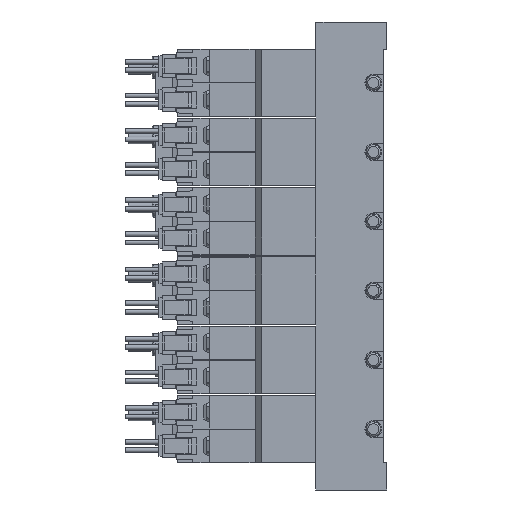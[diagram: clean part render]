
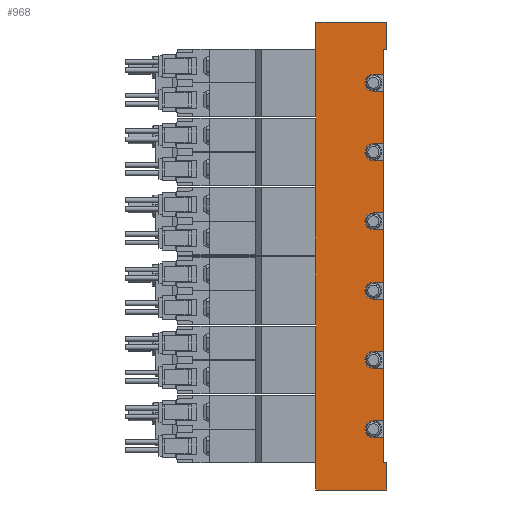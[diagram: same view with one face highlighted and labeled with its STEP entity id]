
A CAD part, left-side view. The second image highlights one B-rep face of the part: STEP entity #968.
In plain terms, the highlighted planar face has unit normal (-1, 0, 0) as drawn and (1, 0, 0) by its records, which use the part's own axes.
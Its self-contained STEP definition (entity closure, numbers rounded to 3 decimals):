
#968=ADVANCED_FACE('',(#2058),#2059,.F.);
#2058=FACE_OUTER_BOUND('',#3204,.T.);
#2059=PLANE('',#3205);
#3204=EDGE_LOOP('',(#6904,#6905,#6906,#6907,#6908,#6909,#6910,#6911,#6912,#6913,#6914,#6915,#6916,#6917,#6918,#6919,#6920,#6921,#6922,#6923,#6924,#6925,#6926,#6927,#6928,#6929,#6930,#6931,#6932,#6933,#6934,#6935));
#3205=AXIS2_PLACEMENT_3D('',#6936,#6937,#6938);
#6904=ORIENTED_EDGE('',*,*,#8262,.T.);
#6905=ORIENTED_EDGE('',*,*,#8227,.T.);
#6906=ORIENTED_EDGE('',*,*,#8223,.F.);
#6907=ORIENTED_EDGE('',*,*,#8115,.F.);
#6908=ORIENTED_EDGE('',*,*,#8202,.T.);
#6909=ORIENTED_EDGE('',*,*,#8273,.T.);
#6910=ORIENTED_EDGE('',*,*,#8194,.T.);
#6911=ORIENTED_EDGE('',*,*,#8244,.F.);
#6912=ORIENTED_EDGE('',*,*,#8277,.F.);
#6913=ORIENTED_EDGE('',*,*,#8161,.F.);
#6914=ORIENTED_EDGE('',*,*,#8191,.T.);
#6915=ORIENTED_EDGE('',*,*,#8253,.F.);
#6916=ORIENTED_EDGE('',*,*,#8286,.F.);
#6917=ORIENTED_EDGE('',*,*,#8170,.F.);
#6918=ORIENTED_EDGE('',*,*,#8188,.T.);
#6919=ORIENTED_EDGE('',*,*,#8092,.F.);
#6920=ORIENTED_EDGE('',*,*,#8287,.F.);
#6921=ORIENTED_EDGE('',*,*,#8198,.F.);
#6922=ORIENTED_EDGE('',*,*,#8185,.T.);
#6923=ORIENTED_EDGE('',*,*,#8234,.F.);
#6924=ORIENTED_EDGE('',*,*,#8285,.F.);
#6925=ORIENTED_EDGE('',*,*,#8099,.F.);
#6926=ORIENTED_EDGE('',*,*,#8182,.T.);
#6927=ORIENTED_EDGE('',*,*,#8288,.F.);
#6928=ORIENTED_EDGE('',*,*,#8138,.F.);
#6929=ORIENTED_EDGE('',*,*,#8282,.F.);
#6930=ORIENTED_EDGE('',*,*,#8178,.T.);
#6931=ORIENTED_EDGE('',*,*,#8106,.F.);
#6932=ORIENTED_EDGE('',*,*,#8289,.F.);
#6933=ORIENTED_EDGE('',*,*,#8290,.F.);
#6934=ORIENTED_EDGE('',*,*,#8175,.T.);
#6935=ORIENTED_EDGE('',*,*,#8135,.T.);
#6936=CARTESIAN_POINT('',(17.5,1.0,69.25));
#6937=DIRECTION('',(-1.0,0.0,0.0));
#6938=DIRECTION('',(0.0,0.0,1.0));
#8092=EDGE_CURVE('',#9925,#9926,#9927,.T.);
#8099=EDGE_CURVE('',#9939,#9940,#9941,.T.);
#8106=EDGE_CURVE('',#9953,#9954,#9955,.T.);
#8115=EDGE_CURVE('',#9970,#9972,#9973,.T.);
#8135=EDGE_CURVE('',#9999,#10008,#10010,.T.);
#8138=EDGE_CURVE('',#10014,#10016,#10017,.T.);
#8161=EDGE_CURVE('',#10058,#10059,#10060,.T.);
#8170=EDGE_CURVE('',#10074,#10075,#10076,.T.);
#8175=EDGE_CURVE('',#10083,#9999,#10084,.T.);
#8178=EDGE_CURVE('',#10088,#9954,#10089,.T.);
#8182=EDGE_CURVE('',#9939,#10094,#10096,.T.);
#8185=EDGE_CURVE('',#10101,#10099,#10102,.T.);
#8188=EDGE_CURVE('',#10074,#9926,#10106,.T.);
#8191=EDGE_CURVE('',#10058,#10109,#10111,.T.);
#8194=EDGE_CURVE('',#10116,#10114,#10117,.T.);
#8198=EDGE_CURVE('',#10101,#10123,#10124,.T.);
#8202=EDGE_CURVE('',#9970,#10130,#10131,.T.);
#8223=EDGE_CURVE('',#9972,#10163,#10167,.T.);
#8227=EDGE_CURVE('',#10174,#10163,#10175,.T.);
#8234=EDGE_CURVE('',#10186,#10099,#10187,.T.);
#8244=EDGE_CURVE('',#10204,#10114,#10205,.T.);
#8253=EDGE_CURVE('',#10218,#10109,#10219,.T.);
#8262=EDGE_CURVE('',#10008,#10174,#10233,.T.);
#8273=EDGE_CURVE('',#10130,#10116,#10249,.T.);
#8277=EDGE_CURVE('',#10059,#10204,#10254,.T.);
#8282=EDGE_CURVE('',#10088,#10014,#10263,.T.);
#8285=EDGE_CURVE('',#9940,#10186,#10266,.T.);
#8286=EDGE_CURVE('',#10075,#10218,#10267,.T.);
#8287=EDGE_CURVE('',#10123,#9925,#10268,.T.);
#8288=EDGE_CURVE('',#10016,#10094,#10269,.T.);
#8289=EDGE_CURVE('',#10270,#9953,#10271,.T.);
#8290=EDGE_CURVE('',#10083,#10270,#10272,.T.);
#9925=VERTEX_POINT('',#12945);
#9926=VERTEX_POINT('',#12946);
#9927=LINE('',#12947,#12948);
#9939=VERTEX_POINT('',#12964);
#9940=VERTEX_POINT('',#12965);
#9941=LINE('',#12966,#12967);
#9953=VERTEX_POINT('',#12983);
#9954=VERTEX_POINT('',#12984);
#9955=LINE('',#12985,#12986);
#9970=VERTEX_POINT('',#13008);
#9972=VERTEX_POINT('',#13011);
#9973=LINE('',#13012,#13013);
#9999=VERTEX_POINT('',#13260);
#10008=VERTEX_POINT('',#13273);
#10010=LINE('',#13276,#13277);
#10014=VERTEX_POINT('',#13281);
#10016=VERTEX_POINT('',#13284);
#10017=CIRCLE('',#13285,2.5);
#10058=VERTEX_POINT('',#13332);
#10059=VERTEX_POINT('',#13333);
#10060=LINE('',#13334,#13335);
#10074=VERTEX_POINT('',#13353);
#10075=VERTEX_POINT('',#13354);
#10076=LINE('',#13355,#13356);
#10083=VERTEX_POINT('',#13366);
#10084=LINE('',#13367,#13368);
#10088=VERTEX_POINT('',#13374);
#10089=LINE('',#13375,#13376);
#10094=VERTEX_POINT('',#13383);
#10096=LINE('',#13386,#13387);
#10099=VERTEX_POINT('',#13391);
#10101=VERTEX_POINT('',#13394);
#10102=LINE('',#13395,#13396);
#10106=LINE('',#13402,#13403);
#10109=VERTEX_POINT('',#13407);
#10111=LINE('',#13410,#13411);
#10114=VERTEX_POINT('',#13415);
#10116=VERTEX_POINT('',#13418);
#10117=LINE('',#13419,#13420);
#10123=VERTEX_POINT('',#13428);
#10124=LINE('',#13429,#13430);
#10130=VERTEX_POINT('',#13439);
#10131=LINE('',#13440,#13441);
#10163=VERTEX_POINT('',#13476);
#10167=LINE('',#13482,#13483);
#10174=VERTEX_POINT('',#13490);
#10175=LINE('',#13491,#13492);
#10186=VERTEX_POINT('',#13506);
#10187=LINE('',#13507,#13508);
#10204=VERTEX_POINT('',#13531);
#10205=LINE('',#13532,#13533);
#10218=VERTEX_POINT('',#13549);
#10219=LINE('',#13550,#13551);
#10233=LINE('',#13567,#13568);
#10249=LINE('',#13587,#13588);
#10254=CIRCLE('',#13595,2.5);
#10263=LINE('',#13604,#13605);
#10266=CIRCLE('',#13609,2.5);
#10267=CIRCLE('',#13610,2.5);
#10268=CIRCLE('',#13611,2.5);
#10269=LINE('',#13612,#13613);
#10270=VERTEX_POINT('',#13614);
#10271=CIRCLE('',#13615,2.5);
#10272=LINE('',#13616,#13617);
#12945=CARTESIAN_POINT('',(17.5,4.0,12.75));
#12946=CARTESIAN_POINT('',(17.5,1.0,12.75));
#12947=CARTESIAN_POINT('',(17.5,1.0,12.75));
#12948=VECTOR('',#14842,1.0);
#12964=CARTESIAN_POINT('',(17.5,1.0,-12.75));
#12965=CARTESIAN_POINT('',(17.5,4.0,-12.75));
#12966=CARTESIAN_POINT('',(17.5,1.0,-12.75));
#12967=VECTOR('',#14853,1.0);
#12983=CARTESIAN_POINT('',(17.5,4.0,-48.75));
#12984=CARTESIAN_POINT('',(17.5,1.0,-48.75));
#12985=CARTESIAN_POINT('',(17.5,1.0,-48.75));
#12986=VECTOR('',#14864,1.0);
#13008=CARTESIAN_POINT('',(17.5,0.0,69.25));
#13011=CARTESIAN_POINT('',(17.5,21.0,69.25));
#13012=CARTESIAN_POINT('',(17.5,1.0,69.25));
#13013=VECTOR('',#14873,1.0);
#13260=CARTESIAN_POINT('',(17.5,1.0,-61.25));
#13273=CARTESIAN_POINT('',(17.5,0.0,-61.25));
#13276=CARTESIAN_POINT('',(17.5,4.0,-61.25));
#13277=VECTOR('',#14901,1.0);
#13281=CARTESIAN_POINT('',(17.5,4.0,-33.25));
#13284=CARTESIAN_POINT('',(17.5,4.0,-28.25));
#13285=AXIS2_PLACEMENT_3D('',#14906,#14907,#14908);
#13332=CARTESIAN_POINT('',(17.5,1.0,48.75));
#13333=CARTESIAN_POINT('',(17.5,4.0,48.75));
#13334=CARTESIAN_POINT('',(17.5,1.0,48.75));
#13335=VECTOR('',#14960,1.0);
#13353=CARTESIAN_POINT('',(17.5,1.0,28.25));
#13354=CARTESIAN_POINT('',(17.5,4.0,28.25));
#13355=CARTESIAN_POINT('',(17.5,1.0,28.25));
#13356=VECTOR('',#14977,1.0);
#13366=CARTESIAN_POINT('',(17.5,1.0,-53.75));
#13367=CARTESIAN_POINT('',(17.5,1.0,69.25));
#13368=VECTOR('',#14984,1.0);
#13374=CARTESIAN_POINT('',(17.5,1.0,-33.25));
#13375=CARTESIAN_POINT('',(17.5,1.0,69.25));
#13376=VECTOR('',#14987,1.0);
#13383=CARTESIAN_POINT('',(17.5,1.0,-28.25));
#13386=CARTESIAN_POINT('',(17.5,1.0,69.25));
#13387=VECTOR('',#14991,1.0);
#13391=CARTESIAN_POINT('',(17.5,1.0,-7.75));
#13394=CARTESIAN_POINT('',(17.5,1.0,7.75));
#13395=CARTESIAN_POINT('',(17.5,1.0,69.25));
#13396=VECTOR('',#14994,1.0);
#13402=CARTESIAN_POINT('',(17.5,1.0,69.25));
#13403=VECTOR('',#14997,1.0);
#13407=CARTESIAN_POINT('',(17.5,1.0,33.25));
#13410=CARTESIAN_POINT('',(17.5,1.0,69.25));
#13411=VECTOR('',#15000,1.0);
#13415=CARTESIAN_POINT('',(17.5,1.0,53.75));
#13418=CARTESIAN_POINT('',(17.5,1.0,61.25));
#13419=CARTESIAN_POINT('',(17.5,1.0,69.25));
#13420=VECTOR('',#15003,1.0);
#13428=CARTESIAN_POINT('',(17.5,4.0,7.75));
#13429=CARTESIAN_POINT('',(17.5,1.0,7.75));
#13430=VECTOR('',#15009,1.0);
#13439=CARTESIAN_POINT('',(17.5,0.0,61.25));
#13440=CARTESIAN_POINT('',(17.5,0.0,69.25));
#13441=VECTOR('',#15013,1.0);
#13476=CARTESIAN_POINT('',(17.5,21.0,-69.25));
#13482=CARTESIAN_POINT('',(17.5,21.0,69.25));
#13483=VECTOR('',#15061,1.0);
#13490=CARTESIAN_POINT('',(17.5,0.0,-69.25));
#13491=CARTESIAN_POINT('',(17.5,1.0,-69.25));
#13492=VECTOR('',#15071,1.0);
#13506=CARTESIAN_POINT('',(17.5,4.0,-7.75));
#13507=CARTESIAN_POINT('',(17.5,1.0,-7.75));
#13508=VECTOR('',#15084,1.0);
#13531=CARTESIAN_POINT('',(17.5,4.0,53.75));
#13532=CARTESIAN_POINT('',(17.5,1.0,53.75));
#13533=VECTOR('',#15100,1.0);
#13549=CARTESIAN_POINT('',(17.5,4.0,33.25));
#13550=CARTESIAN_POINT('',(17.5,1.0,33.25));
#13551=VECTOR('',#15119,1.0);
#13567=CARTESIAN_POINT('',(17.5,0.0,-61.25));
#13568=VECTOR('',#15140,1.0);
#13587=CARTESIAN_POINT('',(17.5,0.0,61.25));
#13588=VECTOR('',#15165,1.0);
#13595=AXIS2_PLACEMENT_3D('',#15171,#15172,#15173);
#13604=CARTESIAN_POINT('',(17.5,1.0,-33.25));
#13605=VECTOR('',#15186,1.0);
#13609=AXIS2_PLACEMENT_3D('',#15191,#15192,#15193);
#13610=AXIS2_PLACEMENT_3D('',#15194,#15195,#15196);
#13611=AXIS2_PLACEMENT_3D('',#15197,#15198,#15199);
#13612=CARTESIAN_POINT('',(17.5,1.0,-28.25));
#13613=VECTOR('',#15200,1.0);
#13614=CARTESIAN_POINT('',(17.5,4.0,-53.75));
#13615=AXIS2_PLACEMENT_3D('',#15201,#15202,#15203);
#13616=CARTESIAN_POINT('',(17.5,1.0,-53.75));
#13617=VECTOR('',#15204,1.0);
#14842=DIRECTION('',(0.0,-1.0,0.0));
#14853=DIRECTION('',(0.0,1.0,0.0));
#14864=DIRECTION('',(0.0,-1.0,0.0));
#14873=DIRECTION('',(0.0,1.0,0.0));
#14901=DIRECTION('',(0.0,-1.0,0.0));
#14906=CARTESIAN_POINT('',(17.5,4.0,-30.75));
#14907=DIRECTION('',(1.0,0.0,-0.0));
#14908=DIRECTION('',(0.0,0.0,1.0));
#14960=DIRECTION('',(0.0,1.0,0.0));
#14977=DIRECTION('',(0.0,1.0,0.0));
#14984=DIRECTION('',(0.0,0.0,-1.0));
#14987=DIRECTION('',(0.0,0.0,-1.0));
#14991=DIRECTION('',(0.0,0.0,-1.0));
#14994=DIRECTION('',(0.0,0.0,-1.0));
#14997=DIRECTION('',(0.0,0.0,-1.0));
#15000=DIRECTION('',(0.0,0.0,-1.0));
#15003=DIRECTION('',(0.0,0.0,-1.0));
#15009=DIRECTION('',(0.0,1.0,0.0));
#15013=DIRECTION('',(0.0,0.0,-1.0));
#15061=DIRECTION('',(0.0,0.0,-1.0));
#15071=DIRECTION('',(0.0,1.0,0.0));
#15084=DIRECTION('',(0.0,-1.0,0.0));
#15100=DIRECTION('',(0.0,-1.0,0.0));
#15119=DIRECTION('',(0.0,-1.0,0.0));
#15140=DIRECTION('',(0.0,0.0,-1.0));
#15165=DIRECTION('',(0.0,1.0,0.0));
#15171=CARTESIAN_POINT('',(17.5,4.0,51.25));
#15172=DIRECTION('',(1.0,0.0,-0.0));
#15173=DIRECTION('',(0.0,0.0,1.0));
#15186=DIRECTION('',(0.0,1.0,0.0));
#15191=CARTESIAN_POINT('',(17.5,4.0,-10.25));
#15192=DIRECTION('',(1.0,0.0,-0.0));
#15193=DIRECTION('',(0.0,0.0,1.0));
#15194=CARTESIAN_POINT('',(17.5,4.0,30.75));
#15195=DIRECTION('',(1.0,0.0,-0.0));
#15196=DIRECTION('',(0.0,0.0,1.0));
#15197=CARTESIAN_POINT('',(17.5,4.0,10.25));
#15198=DIRECTION('',(1.0,0.0,-0.0));
#15199=DIRECTION('',(0.0,0.0,1.0));
#15200=DIRECTION('',(0.0,-1.0,0.0));
#15201=CARTESIAN_POINT('',(17.5,4.0,-51.25));
#15202=DIRECTION('',(1.0,0.0,-0.0));
#15203=DIRECTION('',(0.0,0.0,1.0));
#15204=DIRECTION('',(0.0,1.0,0.0));
